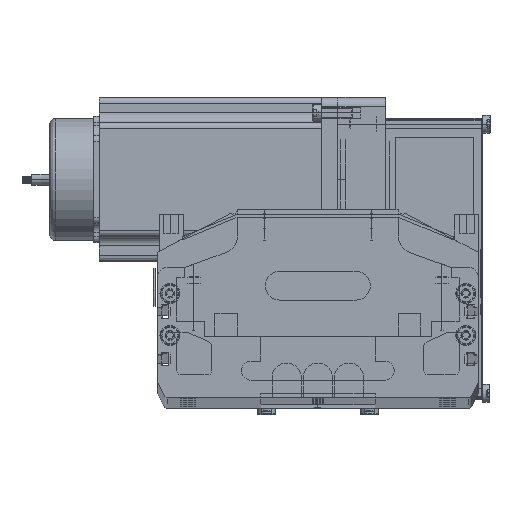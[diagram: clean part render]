
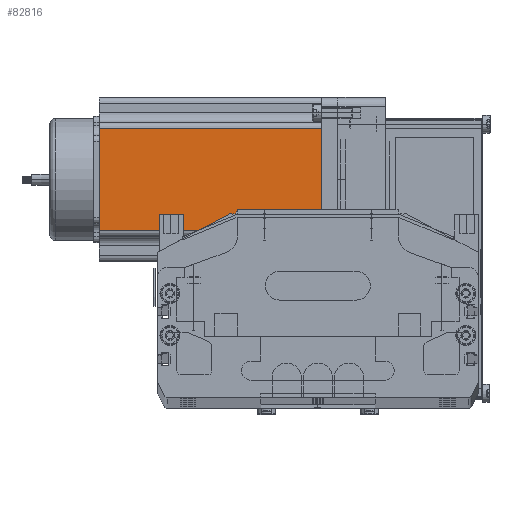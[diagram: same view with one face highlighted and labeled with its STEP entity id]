
A CAD part, top view. The second image highlights one B-rep face of the part: STEP entity #82816.
In plain terms, the highlighted planar face has unit normal (0, 0, 1) as drawn and (0, -1, 0) by its records, which use the part's own axes.
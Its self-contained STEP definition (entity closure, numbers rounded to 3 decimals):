
#30008 = CARTESIAN_POINT ( 'NONE',  ( 16.16, 0., 0. ) ) ;
#30794 = CARTESIAN_POINT ( 'NONE',  ( 69.74, 0., 116.5 ) ) ;
#30795 = LINE ( 'NONE', #30794, #30874 ) ;
#30852 = CARTESIAN_POINT ( 'NONE',  ( 0., 0., 116.5 ) ) ;
#30855 = LINE ( 'NONE', #30852, #31002 ) ;
#30857 = FACE_OUTER_BOUND ( 'NONE', #83188, .T. ) ;
#30867 = DIRECTION ( 'NONE',  ( 0., 1., 0. ) ) ;
#30872 = DIRECTION ( 'NONE',  ( 0., 0., 1. ) ) ;
#30874 = VECTOR ( 'NONE', #30872, 1000. ) ;
#30891 = CARTESIAN_POINT ( 'NONE',  ( 16.16, 0., 116.5 ) ) ;
#30892 = DIRECTION ( 'NONE',  ( 0., 0., -1. ) ) ;
#30894 = VECTOR ( 'NONE', #30892, 1000. ) ;
#30896 = CARTESIAN_POINT ( 'NONE',  ( 16.16, 0., 116.5 ) ) ;
#30908 = LINE ( 'NONE', #30896, #30894 ) ;
#30974 = DIRECTION ( 'NONE',  ( 0., 0., 1. ) ) ;
#30986 = AXIS2_PLACEMENT_3D ( 'NONE', #30994, #30867, #30974 ) ;
#30994 = CARTESIAN_POINT ( 'NONE',  ( 0., 0., 116.5 ) ) ;
#30998 = PLANE ( 'NONE',  #30986 ) ;
#31000 = DIRECTION ( 'NONE',  ( 1., 0., 0. ) ) ;
#31002 = VECTOR ( 'NONE', #31000, 1000. ) ;
#31194 = CARTESIAN_POINT ( 'NONE',  ( 69.74, 0., 116.5 ) ) ;
#44839 = CARTESIAN_POINT ( 'NONE',  ( 69.74, 0., 0. ) ) ;
#51277 = CARTESIAN_POINT ( 'NONE',  ( 0., 0., 0. ) ) ;
#51278 = LINE ( 'NONE', #51277, #51349 ) ;
#51348 = DIRECTION ( 'NONE',  ( 1., 0., 0. ) ) ;
#51349 = VECTOR ( 'NONE', #51348, 1000. ) ;
#82209 = VERTEX_POINT ( 'NONE', #30008 ) ;
#82226 = ORIENTED_EDGE ( 'NONE', *, *, #82632, .T. ) ;
#82632 = EDGE_CURVE ( 'NONE', #82751, #82209, #30908, .T. ) ;
#82740 = EDGE_CURVE ( 'NONE', #83090, #82855, #30795, .T. ) ;
#82751 = VERTEX_POINT ( 'NONE', #30891 ) ;
#82779 = ORIENTED_EDGE ( 'NONE', *, *, #82810, .F. ) ;
#82809 = ORIENTED_EDGE ( 'NONE', *, *, #82740, .T. ) ;
#82810 = EDGE_CURVE ( 'NONE', #82751, #82855, #30855, .T. ) ;
#82816 = ADVANCED_FACE ( 'NONE', ( #30857 ), #30998, .F. ) ;
#82855 = VERTEX_POINT ( 'NONE', #31194 ) ;
#83090 = VERTEX_POINT ( 'NONE', #44839 ) ;
#83165 = EDGE_CURVE ( 'NONE', #82209, #83090, #51278, .T. ) ;
#83188 = EDGE_LOOP ( 'NONE', ( #83218, #82809, #82779, #82226 ) ) ;
#83218 = ORIENTED_EDGE ( 'NONE', *, *, #83165, .T. ) ;
